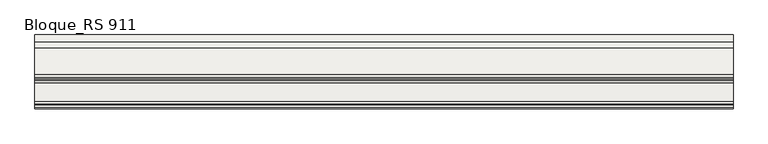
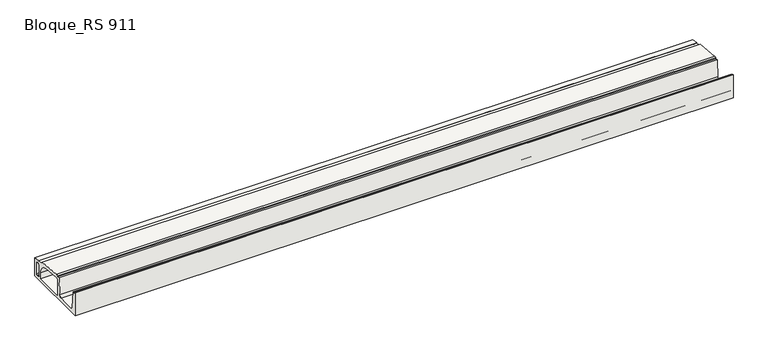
"""IFC4 building model written with IfcOpenShell, lengths in millimetres: slab geometry, ROSA GRES_RS 911 : Bloque_RS 911."""

import ifcopenshell
import ifcopenshell.guid

model = None  # the IFC model being written
_history = None  # IfcOwnerHistory: only IFC2X3 demands one
_inside = {}  # id of a spatial element -> (the spatial element, [elements in it])
_under = {}  # id of a project, library or spatial element -> (it, [spatial elements below it])
_declared = {}  # id of a project -> (the project, [libraries it declares])
_typed = {}  # id of a type object -> (the type object, [elements of that type])
_made_of = {}  # id of a material, layer set ... -> (it, [elements and type objects made of it])


def new_model(schema):
    """Start an empty IFC model of exactly this schema.

    Asked for "IFC4X3", IfcOpenShell would pick the latest addendum, in which some entities
    have other attributes; the version numbers below select the first issue.
    IFC2X3 requires an IfcOwnerHistory on every rooted entity: one is made here for all.
    """
    global model, _history
    if schema == "IFC4X3":
        model = ifcopenshell.file(schema_version=(4, 3, 0, 0))
    else:
        model = ifcopenshell.file(schema=schema)
    _inside.clear()
    _under.clear()
    _declared.clear()
    _typed.clear()
    _made_of.clear()
    _history = None
    if model.schema == "IFC2X3":
        org = make("IfcOrganization", Name="unknown")
        user = make(
            "IfcPersonAndOrganization",
            ThePerson=make("IfcPerson", FamilyName="unknown"),
            TheOrganization=org,
        )
        app = make(
            "IfcApplication",
            ApplicationDeveloper=org,
            Version="unknown",
            ApplicationFullName="unknown",
            ApplicationIdentifier="unknown",
        )
        _history = make(
            "IfcOwnerHistory",
            OwningUser=user,
            OwningApplication=app,
            ChangeAction="ADDED",
            CreationDate=0,
        )
    return model


def make(cls, **values):
    """One entity of the class cls with the attributes given. An attribute that is None is left unset."""
    return model.create_entity(
        cls, **{name: value for name, value in values.items() if value is not None}
    )


def rooted(cls, **values):
    """An entity with a GlobalId (a new one), such as an element, a storey or a relation."""
    return make(cls, GlobalId=ifcopenshell.guid.new(), OwnerHistory=_history, **values)


def si_unit(unit_type, name, prefix=None):
    """IfcSIUnit, for example si_unit("LENGTHUNIT", "METRE", prefix="MILLI")."""
    return make("IfcSIUnit", UnitType=unit_type, Prefix=prefix, Name=name)


def assignment(units):
    """IfcUnitAssignment: the units of a project."""
    return None if units is None else make("IfcUnitAssignment", Units=units)


def point(xyz):
    """IfcCartesianPoint."""
    return None if xyz is None else make("IfcCartesianPoint", Coordinates=xyz)


def direction(xyz):
    """IfcDirection."""
    return None if xyz is None else make("IfcDirection", DirectionRatios=xyz)


def frame(location, z_axis=None, x_axis=None):
    """IfcAxis2Placement3D, a coordinate frame: its origin and axes. An axis left out is left unset."""
    return make(
        "IfcAxis2Placement3D",
        Location=point(location),
        Axis=direction(z_axis),
        RefDirection=direction(x_axis),
    )


def frame_2d(location, x_axis=None):
    """IfcAxis2Placement2D, a coordinate frame in the plane: its origin and x axis."""
    return make(
        "IfcAxis2Placement2D", Location=point(location), RefDirection=direction(x_axis)
    )


def origin():
    """The frame at (0, 0, 0) with its axes left unset."""
    return frame((0.0, 0.0, 0.0))


def place(relative_to, where):
    """IfcLocalPlacement: puts the frame where relative to a parent placement (None: the world)."""
    return make(
        "IfcLocalPlacement", PlacementRelTo=relative_to, RelativePlacement=where
    )


def context(
    kind, dimensions, precision=None, world=None, true_north=None, identifier=None
):
    """IfcGeometricRepresentationContext, for example the 3D "Model" context."""
    return make(
        "IfcGeometricRepresentationContext",
        ContextIdentifier=identifier,
        ContextType=kind,
        CoordinateSpaceDimension=dimensions,
        Precision=precision,
        WorldCoordinateSystem=world,
        TrueNorth=true_north,
    )


def project(units=None, contexts=None):
    """IfcProject with its units and contexts."""
    return rooted(
        "IfcProject",
        Name="project",
        RepresentationContexts=contexts,
        UnitsInContext=assignment(units),
    )


def spatial(cls, under=None, at=None, **own):
    """A site, building, storey or space (cls), placed at a placement, below another one or the project."""
    s = rooted(cls, ObjectPlacement=at, **own)
    if under is not None:
        _under.setdefault(under.id(), (under, []))[1].append(s)
    return s


def polyline(points):
    """IfcPolyline through the points."""
    return make("IfcPolyline", Points=[point(p) for p in points])


def circle_curve(where, radius):
    """IfcCircle in the frame where."""
    return make("IfcCircle", Position=where, Radius=radius)


def trimmed(basis, trim1, trim2, sense, master):
    """IfcTrimmedCurve: the piece of a basis curve between two trims."""
    return make(
        "IfcTrimmedCurve",
        BasisCurve=basis,
        Trim1=trim1,
        Trim2=trim2,
        SenseAgreement=sense,
        MasterRepresentation=master,
    )


def segment(curve, same_sense, transition):
    """IfcCompositeCurveSegment."""
    return make(
        "IfcCompositeCurveSegment",
        Transition=transition,
        SameSense=same_sense,
        ParentCurve=curve,
    )


def composite_curve(segments, self_intersect=None):
    """IfcCompositeCurve: segments joined end to end."""
    return make("IfcCompositeCurve", Segments=segments, SelfIntersect=self_intersect)


def outline(outer, holes=None, kind="AREA"):
    """IfcArbitraryClosedProfileDef: a profile drawn as a closed curve; with holes, ...WithVoids."""
    if holes is None:
        return make("IfcArbitraryClosedProfileDef", ProfileType=kind, OuterCurve=outer)
    return make(
        "IfcArbitraryProfileDefWithVoids",
        ProfileType=kind,
        OuterCurve=outer,
        InnerCurves=holes,
    )


def extrude(swept, where, along, depth):
    """IfcExtrudedAreaSolid: the profile swept, set in the frame where, extruded along a direction by depth."""
    return make(
        "IfcExtrudedAreaSolid",
        SweptArea=swept,
        Position=where,
        ExtrudedDirection=direction(along),
        Depth=depth,
    )


def shape(context_of_items, identifier, shape_type, items):
    """IfcShapeRepresentation: the items that make up one representation, for example the "Body"."""
    return make(
        "IfcShapeRepresentation",
        ContextOfItems=context_of_items,
        RepresentationIdentifier=identifier,
        RepresentationType=shape_type,
        Items=items,
    )


def source(mapping_origin, context_of_items, identifier, shape_type, items):
    """IfcRepresentationMap: a shape defined once, which mapped items show again and again."""
    return make(
        "IfcRepresentationMap",
        MappingOrigin=mapping_origin,
        MappedRepresentation=shape(context_of_items, identifier, shape_type, items),
    )


def transform(
    local_origin,
    x_axis=None,
    y_axis=None,
    z_axis=None,
    scale=None,
    scale2=None,
    scale3=None,
    uniform=True,
):
    """IfcCartesianTransformationOperator3D, or its non-uniform kind. x_axis, y_axis, z_axis: its Axis1, 2, 3."""
    if uniform:
        return make(
            "IfcCartesianTransformationOperator3D",
            Axis1=direction(x_axis),
            Axis2=direction(y_axis),
            LocalOrigin=point(local_origin),
            Scale=scale,
            Axis3=direction(z_axis),
        )
    return make(
        "IfcCartesianTransformationOperator3DnonUniform",
        Axis1=direction(x_axis),
        Axis2=direction(y_axis),
        LocalOrigin=point(local_origin),
        Scale=scale,
        Axis3=direction(z_axis),
        Scale2=scale2,
        Scale3=scale3,
    )


def mapped(mapping_source, mapping_target):
    """IfcMappedItem: shows the shape of a source again, moved by a transform."""
    return make(
        "IfcMappedItem", MappingSource=mapping_source, MappingTarget=mapping_target
    )


def made_of(thing, what):
    """Note that an element or type object is made of a material, layer set ...; save() writes the relation."""
    if what is not None:
        _made_of.setdefault(what.id(), (what, []))[1].append(thing)
    return thing


def element(
    cls,
    number,
    at=None,
    inside=None,
    cuts=None,
    type_object=None,
    material=None,
    context=None,
    identifier="Body",
    shape_type=None,
    held_by="IfcProductDefinitionShape",
    body=None,
    shapes=None,
    **own,
):
    """One element of the class cls, such as IfcWall. Its Tag is "e" and its number.

    at: its placement. inside: the storey or other place that contains it. cuts: it is an
    opening in that element (IfcRelVoidsElement). A single representation is given by context,
    identifier, shape_type and body (its items); several are given by shapes. held_by: the class
    of the entity that holds the representations. save() writes the other relations.
    """
    e = rooted(cls, Tag="e%d" % number, ObjectPlacement=at, **own)
    if body is not None:
        shapes = [shape(context, identifier, shape_type, body)]
    if shapes is not None:
        e.Representation = make(held_by, Representations=shapes)
    if inside is not None:
        _inside.setdefault(inside.id(), (inside, []))[1].append(e)
    if cuts is not None:
        rooted(
            "IfcRelVoidsElement", RelatingBuildingElement=cuts, RelatedOpeningElement=e
        )
    if type_object is not None:
        _typed.setdefault(type_object.id(), (type_object, []))[1].append(e)
    return made_of(e, material)


def aggregate(whole, parts):
    """IfcRelAggregates: a whole, such as a stair, and the parts it consists of."""
    return rooted("IfcRelAggregates", RelatingObject=whole, RelatedObjects=parts)


def save(model, path):
    """Write the relations noted so far, then the file.

    IfcRelAggregates (storeys below a building ...), IfcRelContainedInSpatialStructure (elements
    in a storey), IfcRelDefinesByType, IfcRelAssociatesMaterial and IfcRelDeclares: one each for
    every whole, place, type object, material and project.
    """
    for whole, parts in _under.values():
        aggregate(whole, parts)
    for where, things in _inside.values():
        rooted(
            "IfcRelContainedInSpatialStructure",
            RelatedElements=things,
            RelatingStructure=where,
        )
    for kind, things in _typed.values():
        rooted("IfcRelDefinesByType", RelatedObjects=things, RelatingType=kind)
    for what, things in _made_of.values():
        rooted("IfcRelAssociatesMaterial", RelatedObjects=things, RelatingMaterial=what)
    for by, libraries in _declared.values():
        rooted("IfcRelDeclares", RelatingContext=by, RelatedDefinitions=libraries)
    model.write(path)


def bloque_rs_911_d1067a24(model_context):
    return source(origin(), model_context, "Body", "SweptSolid", [
        extrude(outline(composite_curve([segment(polyline([(-12.836227, 1.7539108), (-626.836227, 1.7539108), (-626.836227, 216.3460936), (-616.836227, 216.3460936), (-616.836227, 206.3460936), (-598.836227, 206.3460936), (-587.1239808, 55.2086635)]), True, "CONTINUOUS"), segment(trimmed(circle_curve(frame_2d((-567.1837649, 56.7539108)), 20.0), [point((-587.1239808, 55.2086635))], [point((-567.1837649, 36.7539108))], True, "CARTESIAN"), True, "CONTINUOUS"), segment(polyline([(-567.1837649, 36.7539108), (-413.4886891, 36.7539108)]), True, "CONTINUOUS"), segment(trimmed(circle_curve(frame_2d((-413.4886891, 56.7539108)), 20.0), [point((-413.4886891, 36.7539108))], [point((-393.5484732, 55.2086635))], True, "CARTESIAN"), True, "CONTINUOUS"), segment(polyline([(-393.5484732, 55.2086635), (-381.836227, 206.3460936), (-363.836227, 206.3460936), (-363.836227, 216.3460936), (-343.836227, 216.3460936), (-343.836227, 214.7181867), (-123.836227, 196.8112099), (-125.1172881, 181.0724591), (-72.836227, 176.8170239), (-72.836227, 173.8170239), (-67.836227, 173.8170239), (-67.836227, 176.4100471), (-12.836227, 171.9333029), (-12.836227, 1.7539108)]), True, "CONTINUOUS")], self_intersect=False), holes=[composite_curve([segment(polyline([(-67.836227, 140.6431347), (-67.836227, 36.7539108)]), True, "CONTINUOUS"), segment(trimmed(circle_curve(frame_2d((-59.836227, 36.7539108)), 8.0), [point((-67.836227, 36.7539108))], [point((-59.836227, 28.7539108))], True, "CARTESIAN"), True, "CONTINUOUS"), segment(polyline([(-59.836227, 28.7539108), (-47.836227, 28.7539108)]), True, "CONTINUOUS"), segment(trimmed(circle_curve(frame_2d((-47.836227, 36.7539108)), 8.0), [point((-47.836227, 28.7539108))], [point((-39.836227, 36.7539108))], True, "CARTESIAN"), True, "CONTINUOUS"), segment(polyline([(-39.836227, 36.7539108), (-39.836227, 139.6663905)]), True, "CONTINUOUS"), segment(trimmed(circle_curve(frame_2d((-47.836227, 139.6663905)), 8.0), [point((-39.836227, 139.6663905))], [point((-47.1872106, 147.6400206))], True, "CARTESIAN"), True, "CONTINUOUS"), segment(polyline([(-47.1872106, 147.6400206), (-59.1872106, 148.6167648)]), True, "CONTINUOUS"), segment(trimmed(circle_curve(frame_2d((-59.836227, 140.6431347)), 8.0), [point((-59.1872106, 148.6167648))], [point((-67.836227, 140.6431347))], True, "CARTESIAN"), True, "CONTINUOUS")], self_intersect=False), composite_curve([segment(polyline([(-180.4105134, 169.2541533), (-334.6837717, 181.811279)]), True, "CONTINUOUS"), segment(trimmed(circle_curve(frame_2d((-336.3063127, 161.8772036)), 20.0), [point((-334.6837717, 181.811279))], [point((-356.3063127, 161.8772036))], True, "CARTESIAN"), True, "CONTINUOUS"), segment(polyline([(-356.3063127, 161.8772036), (-356.3063127, 28.7539108), (-102.3063127, 28.7539108), (-102.3063127, 84.534333)]), True, "CONTINUOUS"), segment(trimmed(circle_curve(frame_2d((-187.3063127, 84.534333)), 85.0), [point((-102.3063127, 84.534333))], [point((-180.4105134, 169.2541533))], True, "CARTESIAN"), True, "CONTINUOUS")], self_intersect=False)]), frame((0.0, 0.0, 0.0), z_axis=(1.0, 0.0, 0.0), x_axis=(0.0, 1.0, 0.0)), (0.0, 0.0, 1.0), 5804.1673721),
    ])


if __name__ == "__main__":
    model = new_model("IFC4")
    model_context = context("Model", 3, world=origin())
    ifc_project = project(units=[si_unit("LENGTHUNIT", "METRE", prefix="MILLI")], contexts=[model_context])
    site = spatial("IfcSite", under=ifc_project)
    building = spatial("IfcBuilding", under=site)
    placement = place(None, origin())
    bloque_rs_911_shape = bloque_rs_911_d1067a24(model_context)
    element("IfcSlab", 1, ObjectType="ROSA GRES_RS 911 : Bloque_RS 911", at=placement, inside=building, context=model_context, shape_type="MappedRepresentation", body=[
        mapped(bloque_rs_911_shape, transform((0.0, 0.0, 0.0), x_axis=(1.0, 0.0, 0.0), y_axis=(0.0, 1.0, 0.0), z_axis=(0.0, 0.0, 1.0))),
    ])
    save(model, "model.ifc")
